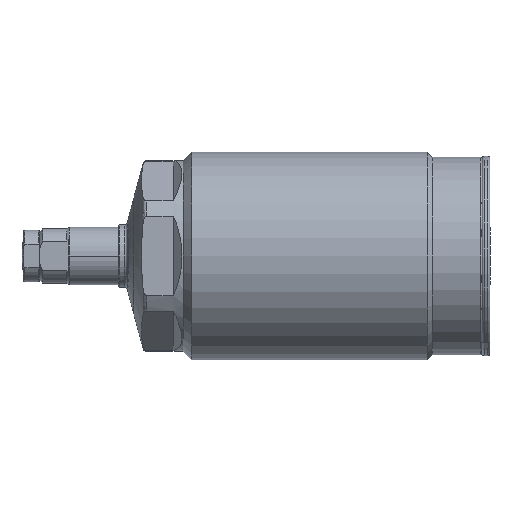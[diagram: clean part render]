
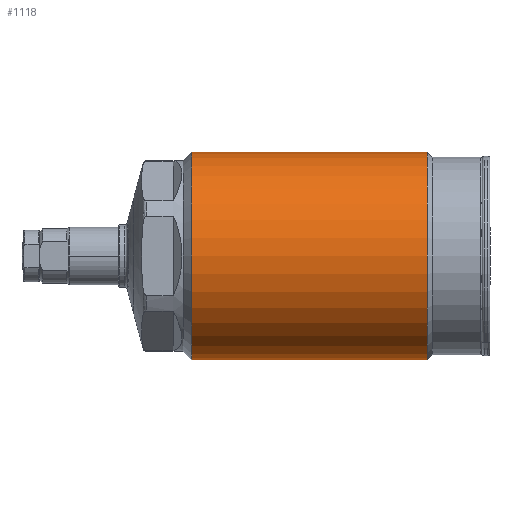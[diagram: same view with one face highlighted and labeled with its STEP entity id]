
A CAD part, left-side view. The second image highlights one B-rep face of the part: STEP entity #1118.
In plain terms, the highlighted cylindrical face has radius 18 mm (diameter 36 mm), a partial arc.
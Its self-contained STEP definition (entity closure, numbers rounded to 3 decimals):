
#842=CYLINDRICAL_SURFACE('',#3145,18.);
#899=LINE('',#4418,#991);
#900=LINE('',#4419,#992);
#991=VECTOR('',#3622,1.);
#992=VECTOR('',#3623,1.);
#1118=ADVANCED_FACE('',(#1309),#842,.T.);
#1309=FACE_OUTER_BOUND('',#1459,.T.);
#1459=EDGE_LOOP('',(#1903,#1904,#1905,#1906));
#1903=ORIENTED_EDGE('',*,*,#2545,.F.);
#1904=ORIENTED_EDGE('',*,*,#2631,.T.);
#1905=ORIENTED_EDGE('',*,*,#2546,.T.);
#1906=ORIENTED_EDGE('',*,*,#2632,.F.);
#2299=VERTEX_POINT('',#4410);
#2300=VERTEX_POINT('',#4412);
#2301=VERTEX_POINT('',#4416);
#2302=VERTEX_POINT('',#4417);
#2545=EDGE_CURVE('',#2302,#2300,#899,.T.);
#2546=EDGE_CURVE('',#2301,#2299,#900,.T.);
#2631=EDGE_CURVE('',#2302,#2301,#2864,.T.);
#2632=EDGE_CURVE('',#2300,#2299,#2865,.T.);
#2864=CIRCLE('',#3142,18.);
#2865=CIRCLE('',#3144,18.);
#3142=AXIS2_PLACEMENT_3D('',#4814,#3768,#3769);
#3144=AXIS2_PLACEMENT_3D('',#4816,#3772,#3773);
#3145=AXIS2_PLACEMENT_3D('',#4817,#3774,#3775);
#3622=DIRECTION('',(0.,1.,0.));
#3623=DIRECTION('',(0.,1.,0.));
#3768=DIRECTION('',(0.,1.,0.));
#3769=DIRECTION('',(0.,0.,1.));
#3772=DIRECTION('',(0.,1.,0.));
#3773=DIRECTION('',(0.,0.,1.));
#3774=DIRECTION('',(0.,1.,0.));
#3775=DIRECTION('',(0.,0.,-1.));
#4410=CARTESIAN_POINT('',(0.,51.6,18.));
#4412=CARTESIAN_POINT('',(0.,51.6,-18.));
#4416=CARTESIAN_POINT('',(0.,10.9,18.));
#4417=CARTESIAN_POINT('',(0.,10.9,-18.));
#4418=CARTESIAN_POINT('',(0.,64.3,-18.));
#4419=CARTESIAN_POINT('',(0.,64.3,18.));
#4814=CARTESIAN_POINT('',(0.,10.9,0.));
#4816=CARTESIAN_POINT('',(0.,51.6,0.));
#4817=CARTESIAN_POINT('',(0.,64.3,0.));
